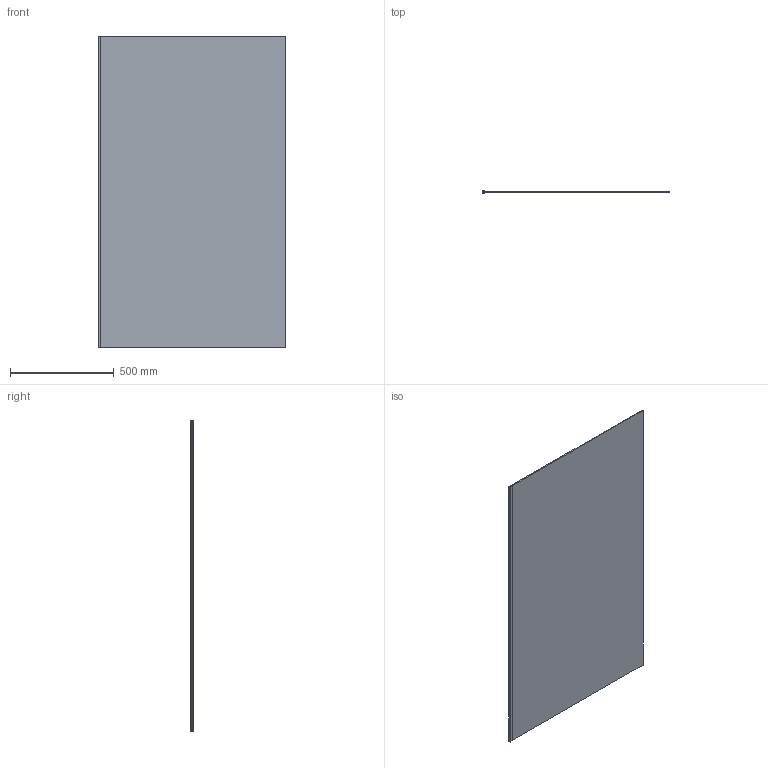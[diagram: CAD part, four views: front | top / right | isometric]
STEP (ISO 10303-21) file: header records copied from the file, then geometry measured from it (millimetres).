
FILE_DESCRIPTION(/* description */ ('Стенка задняя'),/* implementation_level */ '2;1');
FILE_NAME(/* name */ 'D:\5\GLASS LINE GV-006\GLASS LINE GV-006 левая модель\GLASS LINE GV-006 ЛЕВАЯ-3D.stp',/* time_stamp */ '2021-05-24T11:24:01+03:00',/* author */ ('User'),/* organization */ (''),/* preprocessor_version */ 'ST-DEVELOPER v15.2',/* originating_system */ 'Autodesk Inventor 2014',/* authorisation */ '');
FILE_SCHEMA (('AUTOMOTIVE_DESIGN { 1 0 10303 214 3 1 1 }'));
Length unit declared in the file: millimetre
Products named in the file (4): Стекло.02 (22) TR; UP006K.02; Профиль П-\X2\043E043104400430
0437043D044B0439\X0\ 13х11х13x2 (\X2\044104420435
043A043B043E\X0\ 6 мм)_2; GLASS LINE GV-006 ЛЕВАЯ-3D
Bounding box: 903 x 11 x 1501 mm (x, y, z)
Volume: 8207896.4 mm3; surface area: 2854957.5 mm2
Topology: 3 solids, 3 shells, 25 faces, 57 edges, 38 vertices
Faces by surface type: plane 22, cylinder 3
Full cylindrical faces by diameter (mm): 6 x3
Entity records: 795 total; most frequent: DIRECTION 124, CARTESIAN_POINT 124, ORIENTED_EDGE 108, EDGE_CURVE 54, LINE 48, VECTOR 48, VERTEX_POINT 38, AXIS2_PLACEMENT_3D 38
